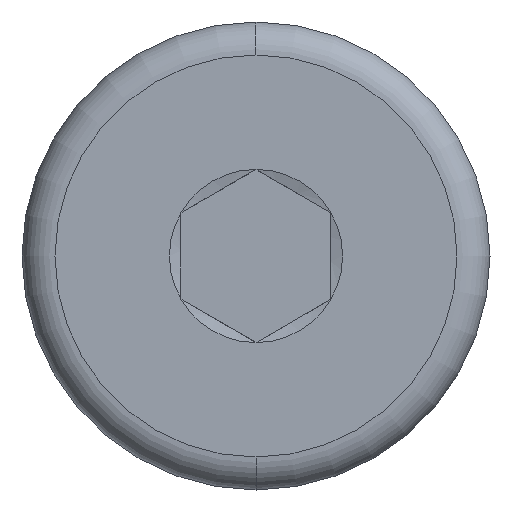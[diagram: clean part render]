
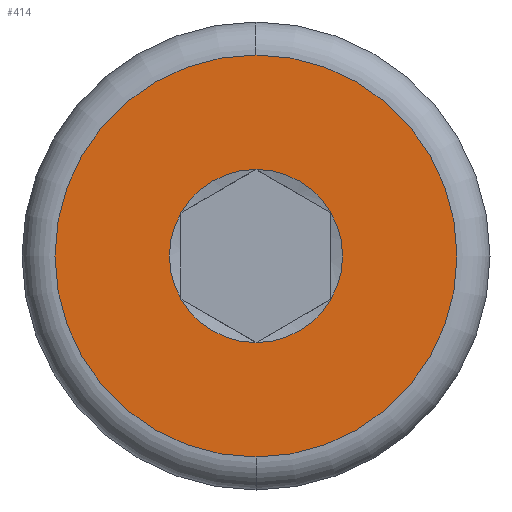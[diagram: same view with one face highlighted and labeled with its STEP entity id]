
A CAD part, left-side view. The second image highlights one B-rep face of the part: STEP entity #414.
In plain terms, the highlighted planar face has unit normal (-1, 0, 0).
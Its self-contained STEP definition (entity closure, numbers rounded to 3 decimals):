
#16 = CIRCLE ( 'NONE', #244, 2.887 ) ;
#28 = ORIENTED_EDGE ( 'NONE', *, *, #344, .T. ) ;
#34 = FACE_BOUND ( 'NONE', #155, .T. ) ;
#36 = CARTESIAN_POINT ( 'NONE',  ( 0., -2.5, 1.443 ) ) ;
#45 = EDGE_CURVE ( 'NONE', #675, #331, #363, .T. ) ;
#47 = DIRECTION ( 'NONE',  ( 1., 0., 0. ) ) ;
#50 = DIRECTION ( 'NONE',  ( 1., 0., 0. ) ) ;
#63 = ORIENTED_EDGE ( 'NONE', *, *, #120, .T. ) ;
#71 = CIRCLE ( 'NONE', #561, 2.887 ) ;
#74 = DIRECTION ( 'NONE',  ( 0., 0., -1. ) ) ;
#90 = AXIS2_PLACEMENT_3D ( 'NONE', #614, #47, #571 ) ;
#92 = EDGE_CURVE ( 'NONE', #331, #675, #249, .T. ) ;
#94 = CARTESIAN_POINT ( 'NONE',  ( 0., 0., 0. ) ) ;
#102 = DIRECTION ( 'NONE',  ( 0., 0., -1. ) ) ;
#105 = DIRECTION ( 'NONE',  ( 1., 0., 0. ) ) ;
#114 = VERTEX_POINT ( 'NONE', #664 ) ;
#120 = EDGE_CURVE ( 'NONE', #252, #196, #495, .T. ) ;
#129 = ORIENTED_EDGE ( 'NONE', *, *, #511, .T. ) ;
#148 = DIRECTION ( 'NONE',  ( 1., 0., 0. ) ) ;
#155 = EDGE_LOOP ( 'NONE', ( #28, #63, #160, #469, #129, #519 ) ) ;
#156 = CARTESIAN_POINT ( 'NONE',  ( 0., 0., 0. ) ) ;
#159 = AXIS2_PLACEMENT_3D ( 'NONE', #156, #50, #162 ) ;
#160 = ORIENTED_EDGE ( 'NONE', *, *, #338, .T. ) ;
#162 = DIRECTION ( 'NONE',  ( 0., 0., -1. ) ) ;
#166 = CARTESIAN_POINT ( 'NONE',  ( 0., 0., 0. ) ) ;
#174 = DIRECTION ( 'NONE',  ( 0., 0., -1. ) ) ;
#178 = CARTESIAN_POINT ( 'NONE',  ( 0., 0., -2.887 ) ) ;
#196 = VERTEX_POINT ( 'NONE', #36 ) ;
#223 = CARTESIAN_POINT ( 'NONE',  ( 0., 0., 2.887 ) ) ;
#244 = AXIS2_PLACEMENT_3D ( 'NONE', #596, #282, #497 ) ;
#249 = CIRCLE ( 'NONE', #90, 6.7 ) ;
#250 = CARTESIAN_POINT ( 'NONE',  ( 0., 0., 0. ) ) ;
#252 = VERTEX_POINT ( 'NONE', #223 ) ;
#256 = ORIENTED_EDGE ( 'NONE', *, *, #92, .F. ) ;
#270 = DIRECTION ( 'NONE',  ( 1., 0., 0. ) ) ;
#279 = CARTESIAN_POINT ( 'NONE',  ( 0., 0., 0. ) ) ;
#282 = DIRECTION ( 'NONE',  ( 1., 0., 0. ) ) ;
#296 = VERTEX_POINT ( 'NONE', #178 ) ;
#305 = AXIS2_PLACEMENT_3D ( 'NONE', #94, #617, #306 ) ;
#306 = DIRECTION ( 'NONE',  ( 0., 0., 1. ) ) ;
#331 = VERTEX_POINT ( 'NONE', #393 ) ;
#338 = EDGE_CURVE ( 'NONE', #196, #665, #568, .T. ) ;
#344 = EDGE_CURVE ( 'NONE', #114, #252, #16, .T. ) ;
#363 = CIRCLE ( 'NONE', #398, 6.7 ) ;
#371 = DIRECTION ( 'NONE',  ( 0., 0., -1. ) ) ;
#391 = CARTESIAN_POINT ( 'NONE',  ( 0., -2.5, -1.443 ) ) ;
#393 = CARTESIAN_POINT ( 'NONE',  ( 0., 0., 6.7 ) ) ;
#398 = AXIS2_PLACEMENT_3D ( 'NONE', #435, #545, #174 ) ;
#414 = ADVANCED_FACE ( 'NONE', ( #34, #672 ), #555, .T. ) ;
#435 = CARTESIAN_POINT ( 'NONE',  ( 0., 0., 0. ) ) ;
#454 = CIRCLE ( 'NONE', #159, 2.887 ) ;
#469 = ORIENTED_EDGE ( 'NONE', *, *, #618, .T. ) ;
#492 = DIRECTION ( 'NONE',  ( 1., 0., 0. ) ) ;
#495 = CIRCLE ( 'NONE', #506, 2.887 ) ;
#497 = DIRECTION ( 'NONE',  ( 0., 0., -1. ) ) ;
#506 = AXIS2_PLACEMENT_3D ( 'NONE', #250, #148, #584 ) ;
#511 = EDGE_CURVE ( 'NONE', #296, #604, #454, .T. ) ;
#519 = ORIENTED_EDGE ( 'NONE', *, *, #643, .T. ) ;
#525 = AXIS2_PLACEMENT_3D ( 'NONE', #279, #492, #74 ) ;
#542 = ORIENTED_EDGE ( 'NONE', *, *, #45, .F. ) ;
#545 = DIRECTION ( 'NONE',  ( 1., 0., 0. ) ) ;
#555 = PLANE ( 'NONE',  #305 ) ;
#561 = AXIS2_PLACEMENT_3D ( 'NONE', #578, #105, #102 ) ;
#568 = CIRCLE ( 'NONE', #525, 2.887 ) ;
#571 = DIRECTION ( 'NONE',  ( 0., 0., -1. ) ) ;
#578 = CARTESIAN_POINT ( 'NONE',  ( 0., 0., 0. ) ) ;
#584 = DIRECTION ( 'NONE',  ( 0., 0., -1. ) ) ;
#590 = CARTESIAN_POINT ( 'NONE',  ( 0., 2.5, -1.443 ) ) ;
#595 = EDGE_LOOP ( 'NONE', ( #542, #256 ) ) ;
#596 = CARTESIAN_POINT ( 'NONE',  ( 0., 0., 0. ) ) ;
#598 = CARTESIAN_POINT ( 'NONE',  ( 0., 0., -6.7 ) ) ;
#604 = VERTEX_POINT ( 'NONE', #590 ) ;
#607 = CIRCLE ( 'NONE', #628, 2.887 ) ;
#614 = CARTESIAN_POINT ( 'NONE',  ( 0., 0., 0. ) ) ;
#617 = DIRECTION ( 'NONE',  ( -1., 0., 0. ) ) ;
#618 = EDGE_CURVE ( 'NONE', #665, #296, #607, .T. ) ;
#628 = AXIS2_PLACEMENT_3D ( 'NONE', #166, #270, #371 ) ;
#643 = EDGE_CURVE ( 'NONE', #604, #114, #71, .T. ) ;
#664 = CARTESIAN_POINT ( 'NONE',  ( 0., 2.5, 1.443 ) ) ;
#665 = VERTEX_POINT ( 'NONE', #391 ) ;
#672 = FACE_OUTER_BOUND ( 'NONE', #595, .T. ) ;
#675 = VERTEX_POINT ( 'NONE', #598 ) ;
